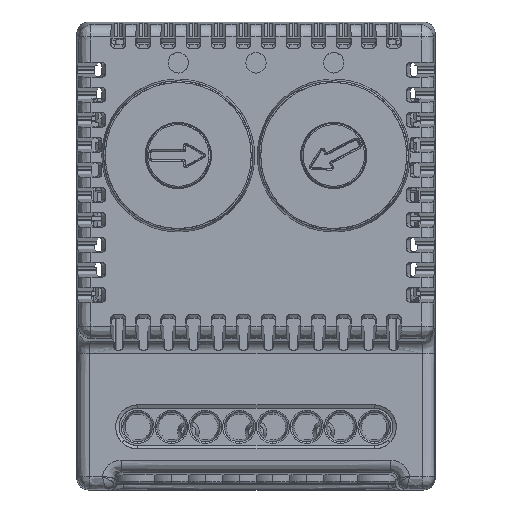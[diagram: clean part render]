
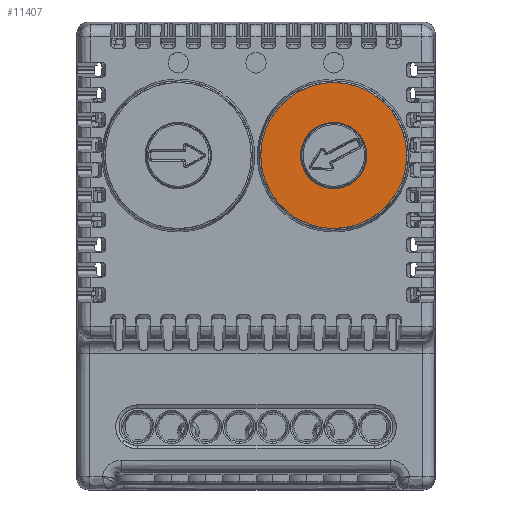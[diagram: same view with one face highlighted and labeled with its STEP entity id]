
A CAD part, top view. The second image highlights one B-rep face of the part: STEP entity #11407.
In plain terms, the highlighted planar face has unit normal (0, 0, 1).
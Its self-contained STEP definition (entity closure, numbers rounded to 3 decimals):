
#29=FACE_BOUND($,#14336,.T.);
#611=PLANE($,#41929);
#2906=B_SPLINE_CURVE_WITH_KNOTS($,3,(#63040,#63041,#63042,#63043,#63044,
#63045,#63046,#63047,#63048,#63049,#63050,#63051,#63052,#63053,#63054,#63055,
#63056,#63057,#63058,#63059,#63060,#63061),.UNSPECIFIED.,.F.,.F.,(4,1,1,
1,1,1,1,1,1,1,1,1,1,1,1,1,1,1,1,4),(-33.913,-32.733,
-31.553,-29.44,-28.343,-27.247,-26.201,
-25.155,-23.069,-21.98,-20.892,
-18.924,-16.956,-14.597,-12.484,
-10.29,-8.199,-6.112,-3.936,
0.),.UNSPECIFIED.);
#2907=B_SPLINE_CURVE_WITH_KNOTS($,3,(#63062,#63063,#63064,#63065,#63066,
#63067,#63068,#63069,#63070,#63071,#63072,#63073,#63074,#63075,#63076,#63077,
#63078,#63079,#63080,#63081,#63082,#63083),.UNSPECIFIED.,.F.,.F.,(4,1,1,
1,1,1,1,1,1,1,1,1,1,1,1,1,1,1,1,4),(-33.913,-32.733,
-31.553,-29.44,-28.343,-27.247,-26.201,
-25.155,-23.069,-21.98,-20.892,-18.924,
-16.956,-14.597,-12.484,-10.29,
-8.199,-6.112,-3.936,0.),
.UNSPECIFIED.);
#11407=ADVANCED_FACE($,(#12862,#29),#611,.T.);
#12862=FACE_OUTER_BOUND($,#14335,.T.);
#14335=EDGE_LOOP($,(#17918,#17919));
#14336=EDGE_LOOP($,(#17920,#17921));
#17918=ORIENTED_EDGE($,*,*,#26170,.T.);
#17919=ORIENTED_EDGE($,*,*,#26171,.T.);
#17920=ORIENTED_EDGE($,*,*,#26172,.T.);
#17921=ORIENTED_EDGE($,*,*,#26173,.T.);
#26170=EDGE_CURVE($,#34332,#34333,#2906,.T.);
#26171=EDGE_CURVE($,#34333,#34332,#2907,.T.);
#26172=EDGE_CURVE($,#34334,#34335,#41168,.T.);
#26173=EDGE_CURVE($,#34335,#34334,#41169,.T.);
#34332=VERTEX_POINT($,#63095);
#34333=VERTEX_POINT($,#63096);
#34334=VERTEX_POINT($,#63097);
#34335=VERTEX_POINT($,#63098);
#41168=(
BOUNDED_CURVE()
B_SPLINE_CURVE(2,(#63084,#63085,#63086,#63087,#63088),.UNSPECIFIED.,.F.,
.F.)
B_SPLINE_CURVE_WITH_KNOTS((3,2,3),(0.,7.775,15.55),
.UNSPECIFIED.)
CURVE()
GEOMETRIC_REPRESENTATION_ITEM()
RATIONAL_B_SPLINE_CURVE((1.,0.707,1.,0.707,1.))
REPRESENTATION_ITEM($)
);
#41169=(
BOUNDED_CURVE()
B_SPLINE_CURVE(2,(#63089,#63090,#63091,#63092,#63093),.UNSPECIFIED.,.F.,
.F.)
B_SPLINE_CURVE_WITH_KNOTS((3,2,3),(15.55,23.325,31.1),
.UNSPECIFIED.)
CURVE()
GEOMETRIC_REPRESENTATION_ITEM()
RATIONAL_B_SPLINE_CURVE((1.,0.707,1.,0.707,1.))
REPRESENTATION_ITEM($)
);
#41929=AXIS2_PLACEMENT_3D($,#63094,#42281,$);
#42281=DIRECTION($,(0.,0.,1.));
#63040=CARTESIAN_POINT($,(-63.413,138.322,33.1));
#63041=CARTESIAN_POINT($,(-63.413,137.928,33.1));
#63042=CARTESIAN_POINT($,(-63.37,137.142,33.1));
#63043=CARTESIAN_POINT($,(-63.126,135.669,33.1));
#63044=CARTESIAN_POINT($,(-62.668,134.271,33.1));
#63045=CARTESIAN_POINT($,(-62.024,132.987,33.1));
#63046=CARTESIAN_POINT($,(-61.443,132.075,33.1));
#63047=CARTESIAN_POINT($,(-60.786,131.238,33.1));
#63048=CARTESIAN_POINT($,(-59.822,130.23,33.1));
#63049=CARTESIAN_POINT($,(-58.708,129.36,33.1));
#63050=CARTESIAN_POINT($,(-57.47,128.659,33.1));
#63051=CARTESIAN_POINT($,(-56.205,128.101,33.1));
#63052=CARTESIAN_POINT($,(-54.585,127.647,33.1));
#63053=CARTESIAN_POINT($,(-52.487,127.455,33.1));
#63054=CARTESIAN_POINT($,(-50.34,127.69,33.1));
#63055=CARTESIAN_POINT($,(-48.218,128.385,33.1));
#63056=CARTESIAN_POINT($,(-46.354,129.443,33.1));
#63057=CARTESIAN_POINT($,(-44.741,130.841,33.1));
#63058=CARTESIAN_POINT($,(-43.432,132.518,33.1));
#63059=CARTESIAN_POINT($,(-42.199,134.973,33.1));
#63060=CARTESIAN_POINT($,(-41.822,137.01,33.1));
#63061=CARTESIAN_POINT($,(-41.823,138.322,33.1));
#63062=CARTESIAN_POINT($,(-41.823,138.322,33.1));
#63063=CARTESIAN_POINT($,(-41.822,138.715,33.1));
#63064=CARTESIAN_POINT($,(-41.866,139.502,33.1));
#63065=CARTESIAN_POINT($,(-42.109,140.975,33.1));
#63066=CARTESIAN_POINT($,(-42.567,142.372,33.1));
#63067=CARTESIAN_POINT($,(-43.212,143.657,33.1));
#63068=CARTESIAN_POINT($,(-43.792,144.569,33.1));
#63069=CARTESIAN_POINT($,(-44.449,145.405,33.1));
#63070=CARTESIAN_POINT($,(-45.413,146.413,33.1));
#63071=CARTESIAN_POINT($,(-46.527,147.283,33.1));
#63072=CARTESIAN_POINT($,(-47.765,147.985,33.1));
#63073=CARTESIAN_POINT($,(-49.031,148.543,33.1));
#63074=CARTESIAN_POINT($,(-50.65,148.997,33.1));
#63075=CARTESIAN_POINT($,(-52.748,149.189,33.1));
#63076=CARTESIAN_POINT($,(-54.895,148.953,33.1));
#63077=CARTESIAN_POINT($,(-57.017,148.258,33.1));
#63078=CARTESIAN_POINT($,(-58.882,147.201,33.1));
#63079=CARTESIAN_POINT($,(-60.494,145.803,33.1));
#63080=CARTESIAN_POINT($,(-61.803,144.125,33.1));
#63081=CARTESIAN_POINT($,(-63.037,141.671,33.1));
#63082=CARTESIAN_POINT($,(-63.414,139.634,33.1));
#63083=CARTESIAN_POINT($,(-63.413,138.322,33.1));
#63084=CARTESIAN_POINT($,(-47.718,138.322,33.1));
#63085=CARTESIAN_POINT($,(-47.718,133.422,33.1));
#63086=CARTESIAN_POINT($,(-52.618,133.422,33.1));
#63087=CARTESIAN_POINT($,(-57.518,133.422,33.1));
#63088=CARTESIAN_POINT($,(-57.518,138.322,33.1));
#63089=CARTESIAN_POINT($,(-57.518,138.322,33.1));
#63090=CARTESIAN_POINT($,(-57.518,143.222,33.1));
#63091=CARTESIAN_POINT($,(-52.618,143.222,33.1));
#63092=CARTESIAN_POINT($,(-47.718,143.222,33.1));
#63093=CARTESIAN_POINT($,(-47.718,138.322,33.1));
#63094=CARTESIAN_POINT($,(-63.618,127.322,33.1));
#63095=CARTESIAN_POINT($,(-63.413,138.322,33.1));
#63096=CARTESIAN_POINT($,(-41.823,138.322,33.1));
#63097=CARTESIAN_POINT($,(-47.718,138.322,33.1));
#63098=CARTESIAN_POINT($,(-57.518,138.322,33.1));
